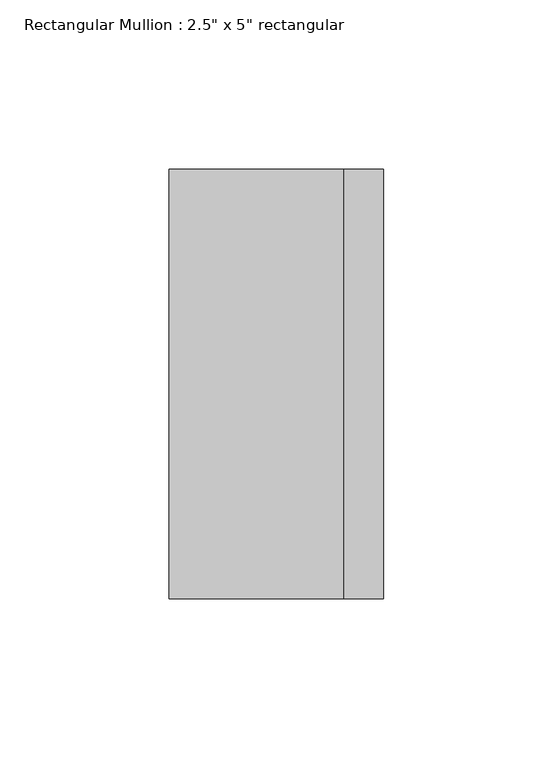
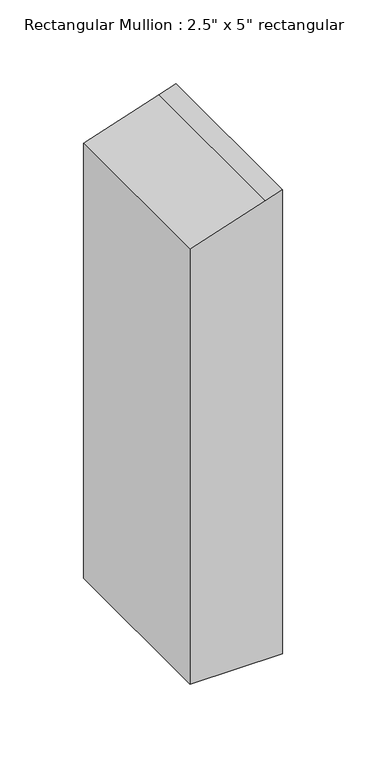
"""IFC4 building model written with IfcOpenShell, lengths in millimetres: member geometry."""

from ifc_helpers import new_model, si_unit, frame, origin, place, context, project, spatial, polyline, outline, extrude, source, transform, mapped, element, save


def member_4c11d242(model_context):
    return source(origin(), model_context, "Body", "SweptSolid", [
        extrude(outline(polyline([(-56.3515438, 31.75), (-60.2413894, 20.0804631), (-77.5182105, -31.75), (-394.1459231, -31.75), (-394.1459231, 31.75), (-56.3515438, 31.75)])), frame((0.0, -63.5, 0.0), z_axis=(0.0, 1.0, 0.0), x_axis=(0.0, 0.0, 1.0)), (0.0, 0.0, 1.0), 127.0),
    ])


if __name__ == "__main__":
    model = new_model("IFC4")
    model_context = context("Model", 3, world=origin())
    ifc_project = project(units=[si_unit("LENGTHUNIT", "METRE", prefix="MILLI")], contexts=[model_context])
    site = spatial("IfcSite", under=ifc_project)
    building = spatial("IfcBuilding", under=site)
    placement = place(None, origin())
    member_shape = member_4c11d242(model_context)
    element("IfcMember", 1, ObjectType="Rectangular Mullion : 2.5\" x 5\" rectangular", at=placement, inside=building, context=model_context, shape_type="MappedRepresentation", body=[
        mapped(member_shape, transform((0.0, 0.0, 0.0), x_axis=(1.0, 0.0, 0.0), y_axis=(0.0, 1.0, 0.0), z_axis=(0.0, 0.0, 1.0))),
    ])
    save(model, "model.ifc")
